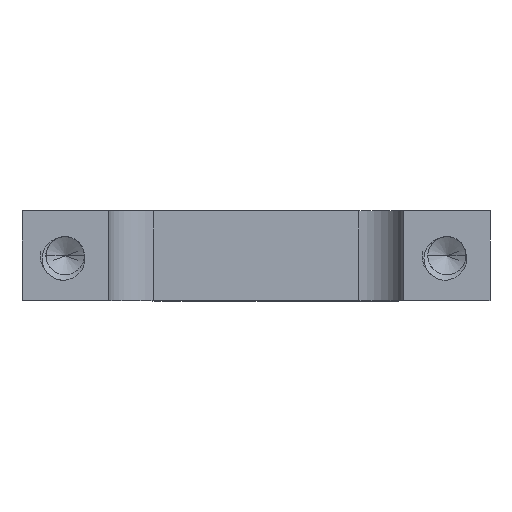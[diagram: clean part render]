
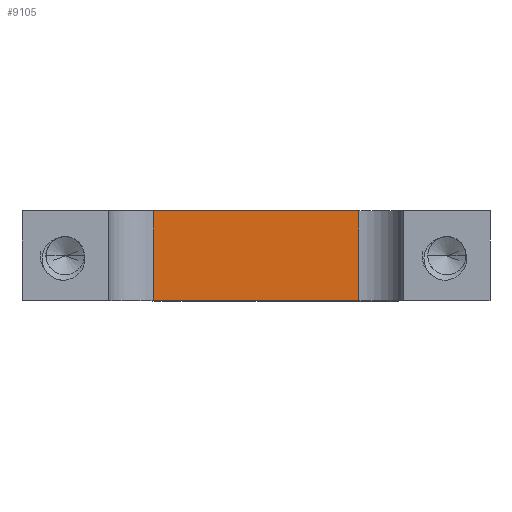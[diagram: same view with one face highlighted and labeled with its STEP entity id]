
A CAD part, top view. The second image highlights one B-rep face of the part: STEP entity #9105.
In plain terms, the highlighted planar face has unit normal (0, 0, 1).
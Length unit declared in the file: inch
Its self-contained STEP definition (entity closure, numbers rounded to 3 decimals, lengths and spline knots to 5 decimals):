
#835 = ORIENTED_EDGE ( 'NONE', *, *, #10246, .T. ) ;
#1803 = CARTESIAN_POINT ( 'NONE',  ( 0.2856, 0.25, 0.55 ) ) ;
#2311 = DIRECTION ( 'NONE',  ( -1., 0., 0. ) ) ;
#2778 = LINE ( 'NONE', #3736, #7381 ) ;
#2854 = AXIS2_PLACEMENT_3D ( 'NONE', #4300, #3333, #2311 ) ;
#3107 = VECTOR ( 'NONE', #12682, 39.37008 ) ;
#3333 = DIRECTION ( 'NONE',  ( 0., 0., -1. ) ) ;
#3422 = LINE ( 'NONE', #8793, #3107 ) ;
#3736 = CARTESIAN_POINT ( 'NONE',  ( -0.2856, 0., 0.55 ) ) ;
#3890 = LINE ( 'NONE', #11691, #11645 ) ;
#4300 = CARTESIAN_POINT ( 'NONE',  ( 0.4106, 0.25, 0.55 ) ) ;
#5461 = VERTEX_POINT ( 'NONE', #5464 ) ;
#5464 = CARTESIAN_POINT ( 'NONE',  ( 0.2856, 0., 0.55 ) ) ;
#5495 = VECTOR ( 'NONE', #7622, 39.37008 ) ;
#6020 = ORIENTED_EDGE ( 'NONE', *, *, #7326, .T. ) ;
#6400 = PLANE ( 'NONE',  #2854 ) ;
#6781 = VERTEX_POINT ( 'NONE', #7868 ) ;
#7326 = EDGE_CURVE ( 'NONE', #7824, #6781, #2778, .T. ) ;
#7381 = VECTOR ( 'NONE', #13006, 39.37008 ) ;
#7413 = FACE_OUTER_BOUND ( 'NONE', #9947, .T. ) ;
#7622 = DIRECTION ( 'NONE',  ( 1., 0., 0. ) ) ;
#7824 = VERTEX_POINT ( 'NONE', #9339 ) ;
#7868 = CARTESIAN_POINT ( 'NONE',  ( -0.2856, 0., 0.55 ) ) ;
#8510 = CARTESIAN_POINT ( 'NONE',  ( 0.4106, 0.25, 0.55 ) ) ;
#8793 = CARTESIAN_POINT ( 'NONE',  ( 0.2856, 0.25, 0.55 ) ) ;
#8827 = LINE ( 'NONE', #8510, #5495 ) ;
#9105 = ADVANCED_FACE ( 'NONE', ( #7413 ), #6400, .F. ) ;
#9339 = CARTESIAN_POINT ( 'NONE',  ( -0.2856, 0.25, 0.55 ) ) ;
#9947 = EDGE_LOOP ( 'NONE', ( #12000, #835, #12343, #6020 ) ) ;
#10246 = EDGE_CURVE ( 'NONE', #5461, #12553, #3422, .T. ) ;
#10676 = EDGE_CURVE ( 'NONE', #7824, #12553, #8827, .T. ) ;
#11423 = EDGE_CURVE ( 'NONE', #6781, #5461, #3890, .T. ) ;
#11640 = DIRECTION ( 'NONE',  ( 1., 0., 0. ) ) ;
#11645 = VECTOR ( 'NONE', #11640, 39.37008 ) ;
#11691 = CARTESIAN_POINT ( 'NONE',  ( 0.4106, 0., 0.55 ) ) ;
#12000 = ORIENTED_EDGE ( 'NONE', *, *, #11423, .T. ) ;
#12343 = ORIENTED_EDGE ( 'NONE', *, *, #10676, .F. ) ;
#12553 = VERTEX_POINT ( 'NONE', #1803 ) ;
#12682 = DIRECTION ( 'NONE',  ( 0., 1., 0. ) ) ;
#13006 = DIRECTION ( 'NONE',  ( 0., -1., 0. ) ) ;
